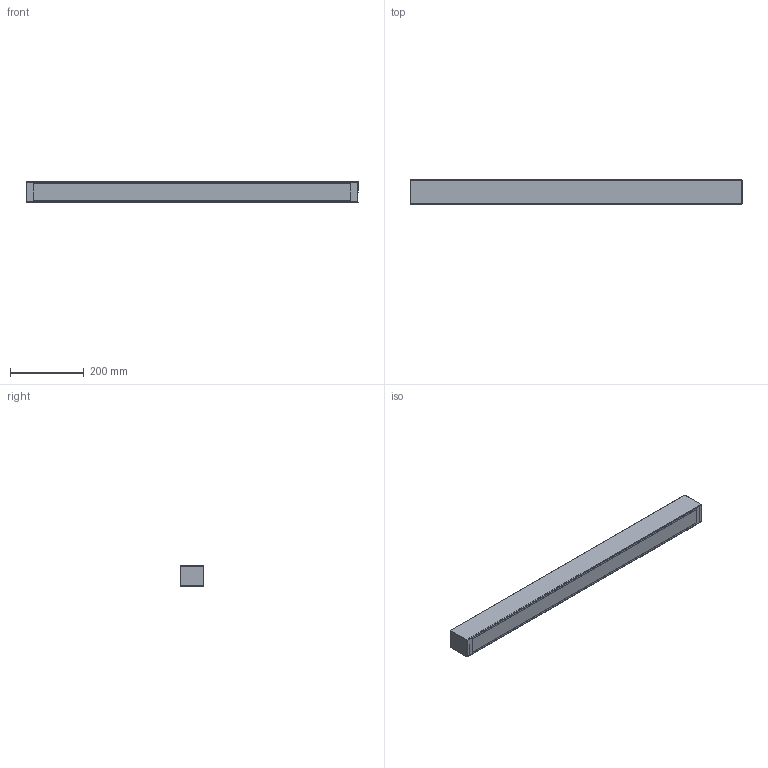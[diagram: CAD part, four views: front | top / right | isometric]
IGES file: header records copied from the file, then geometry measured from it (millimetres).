
Start section: SolidWorks IGES file using analytic representation for surfaces
Global section: file name: C:\Users\ppp\Desktop\Nowodvorski\Modele 3D_lampy\Straight\3Ds\Straight_oprawa_90cm_24.07.IGS; native system: SolidWorks 2012; preprocessor: SolidWorks 2012; author: ppp; date: 150724.082649; units: millimetre
Bounding box: 900 x 65 x 56 mm (x, y, z)
Surface area: 467378 mm2 (no closed solid volume)
Topology: 0 solids, 0 shells, 62 faces, 624 edges, 620 vertices
Faces by surface type: bspline 40, revolution 22
